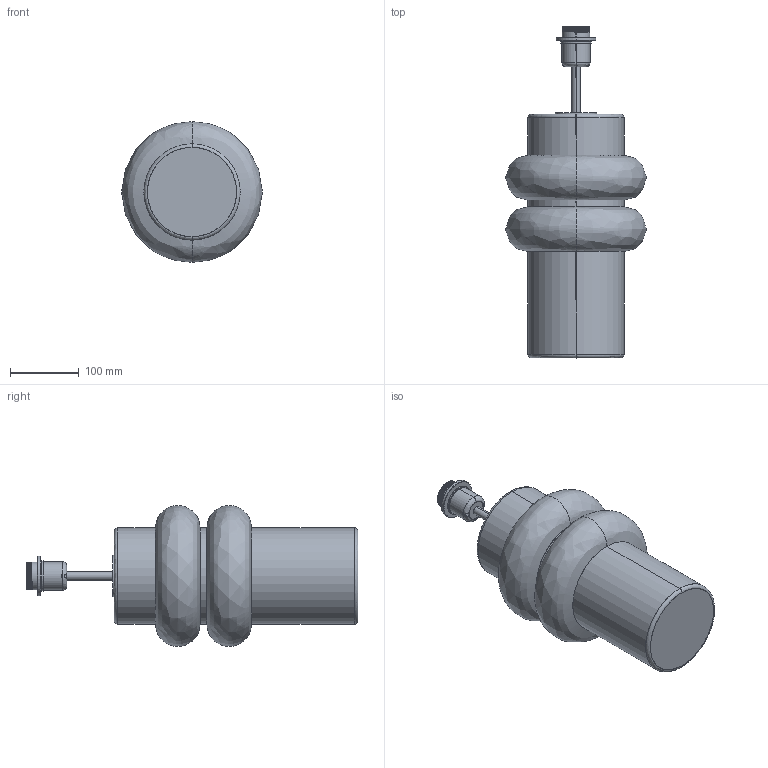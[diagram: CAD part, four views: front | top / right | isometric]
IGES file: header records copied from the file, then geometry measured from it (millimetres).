
Start section: SolidWorks IGES file using analytic representation for surfaces
Global section: file name: C:\Users\danielet\Desktop\ISMAIL\sergio\ALMERIA-S8213080NSP-3D\ALMERIA-S8213080NSP.IGS; native system: SolidWorks 2018; preprocessor: SolidWorks 2018; author: danielet; date: 230316.070722; units: millimetre
Bounding box: 205 x 483.46 x 205 mm (x, y, z)
Surface area: 268899.1 mm2 (no closed solid volume)
Topology: 0 solids, 0 shells, 84 faces, 2249 edges, 2249 vertices
Faces by surface type: revolution 52, bspline 32
